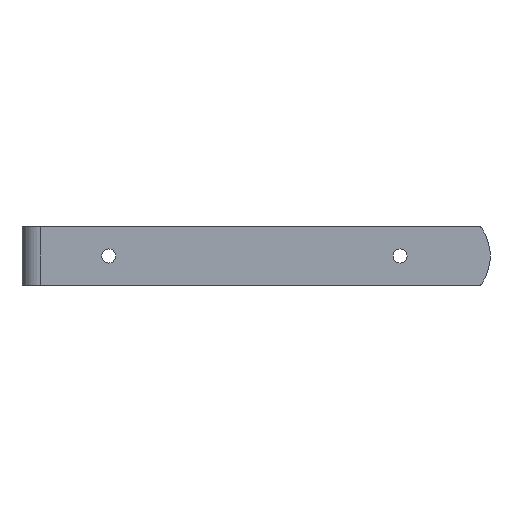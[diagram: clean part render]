
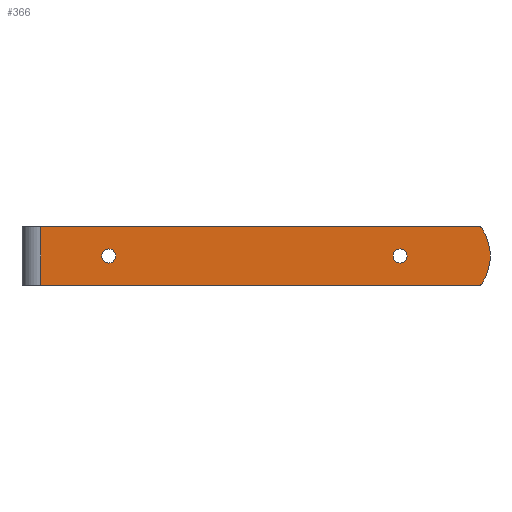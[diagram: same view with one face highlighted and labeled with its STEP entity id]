
A CAD part, front view. The second image highlights one B-rep face of the part: STEP entity #366.
In plain terms, the highlighted planar face has unit normal (0, -1, 0).
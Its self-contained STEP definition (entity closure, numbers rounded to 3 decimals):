
#21=FACE_BOUND('',#71,.T.);
#22=FACE_BOUND('',#72,.T.);
#36=PLANE('',#400);
#46=FACE_OUTER_BOUND('',#70,.T.);
#70=EDGE_LOOP('',(#277,#278,#279,#280,#281,#282));
#71=EDGE_LOOP('',(#283));
#72=EDGE_LOOP('',(#284));
#110=LINE('',#604,#130);
#111=LINE('',#606,#131);
#112=LINE('',#607,#132);
#130=VECTOR('',#482,187.477);
#131=VECTOR('',#483,25.);
#132=VECTOR('',#484,187.477);
#149=CIRCLE('',#398,1.);
#151=CIRCLE('',#401,21.531);
#152=CIRCLE('',#402,1.);
#153=CIRCLE('',#403,3.);
#154=CIRCLE('',#404,3.);
#181=VERTEX_POINT('',#590);
#182=VERTEX_POINT('',#591);
#185=VERTEX_POINT('',#599);
#186=VERTEX_POINT('',#601);
#187=VERTEX_POINT('',#603);
#188=VERTEX_POINT('',#605);
#189=VERTEX_POINT('',#608);
#190=VERTEX_POINT('',#610);
#220=EDGE_CURVE('',#181,#182,#149,.T.);
#224=EDGE_CURVE('',#181,#185,#151,.T.);
#225=EDGE_CURVE('',#186,#185,#152,.T.);
#226=EDGE_CURVE('',#187,#186,#110,.T.);
#227=EDGE_CURVE('',#188,#187,#111,.T.);
#228=EDGE_CURVE('',#182,#188,#112,.T.);
#229=EDGE_CURVE('',#189,#189,#153,.T.);
#230=EDGE_CURVE('',#190,#190,#154,.T.);
#277=ORIENTED_EDGE('',*,*,#220,.F.);
#278=ORIENTED_EDGE('',*,*,#224,.T.);
#279=ORIENTED_EDGE('',*,*,#225,.F.);
#280=ORIENTED_EDGE('',*,*,#226,.F.);
#281=ORIENTED_EDGE('',*,*,#227,.F.);
#282=ORIENTED_EDGE('',*,*,#228,.F.);
#283=ORIENTED_EDGE('',*,*,#229,.T.);
#284=ORIENTED_EDGE('',*,*,#230,.T.);
#366=ADVANCED_FACE('',(#46,#21,#22),#36,.T.);
#398=AXIS2_PLACEMENT_3D('',#592,#470,#471);
#400=AXIS2_PLACEMENT_3D('',#598,#476,#477);
#401=AXIS2_PLACEMENT_3D('',#600,#478,#479);
#402=AXIS2_PLACEMENT_3D('',#602,#480,#481);
#403=AXIS2_PLACEMENT_3D('',#609,#485,#486);
#404=AXIS2_PLACEMENT_3D('',#611,#487,#488);
#470=DIRECTION('center_axis',(0.,1.,0.));
#471=DIRECTION('ref_axis',(0.469,0.,-0.883));
#476=DIRECTION('center_axis',(0.,-1.,0.));
#477=DIRECTION('ref_axis',(1.,0.,0.));
#478=DIRECTION('center_axis',(0.,-1.,0.));
#479=DIRECTION('ref_axis',(-0.814,0.,0.581));
#480=DIRECTION('center_axis',(0.,1.,0.));
#481=DIRECTION('ref_axis',(0.469,0.,0.883));
#482=DIRECTION('',(1.,0.,0.));
#483=DIRECTION('',(0.,0.,1.));
#484=DIRECTION('',(-1.,0.,0.));
#485=DIRECTION('center_axis',(0.,1.,0.));
#486=DIRECTION('ref_axis',(1.,0.,0.));
#487=DIRECTION('center_axis',(0.,1.,0.));
#488=DIRECTION('ref_axis',(1.,0.,0.));
#590=CARTESIAN_POINT('',(196.305,0.,-12.06));
#591=CARTESIAN_POINT('',(195.477,0.,-12.5));
#592=CARTESIAN_POINT('Origin',(195.477,0.,-11.5));
#598=CARTESIAN_POINT('Origin',(0.,0.,0.));
#599=CARTESIAN_POINT('',(196.305,0.,12.06));
#600=CARTESIAN_POINT('Origin',(178.469,0.,0.));
#601=CARTESIAN_POINT('',(195.477,0.,12.5));
#602=CARTESIAN_POINT('Origin',(195.477,0.,11.5));
#603=CARTESIAN_POINT('',(8.,0.,12.5));
#604=CARTESIAN_POINT('',(0.,0.,12.5));
#605=CARTESIAN_POINT('',(8.,0.,-12.5));
#606=CARTESIAN_POINT('',(8.,0.,0.));
#607=CARTESIAN_POINT('',(0.,0.,-12.5));
#608=CARTESIAN_POINT('',(34.,0.,0.));
#609=CARTESIAN_POINT('Origin',(37.,0.,0.));
#610=CARTESIAN_POINT('',(158.5,0.,0.));
#611=CARTESIAN_POINT('Origin',(161.5,0.,0.));
